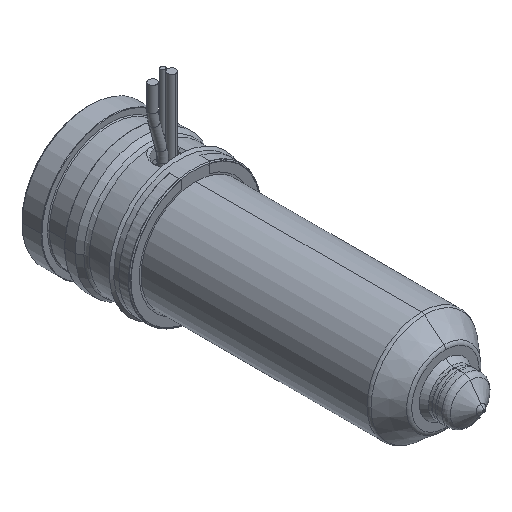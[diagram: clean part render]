
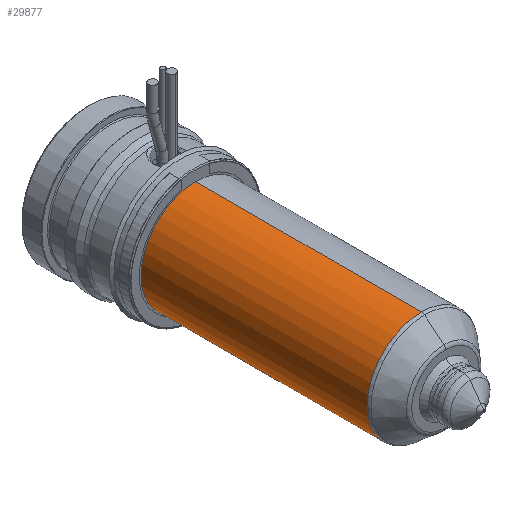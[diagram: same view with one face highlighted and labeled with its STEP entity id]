
A CAD part, isometric view. The second image highlights one B-rep face of the part: STEP entity #29877.
In plain terms, the highlighted cylindrical face has radius 12 mm (diameter 24 mm), a partial arc.
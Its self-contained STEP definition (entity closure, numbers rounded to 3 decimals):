
#29362=CARTESIAN_POINT('',(0.,-24.,0.));
#29363=DIRECTION('',(0.,1.,0.));
#29364=DIRECTION('',(0.,0.,-1.));
#29365=AXIS2_PLACEMENT_3D('',#29362,#29363,#29364);
#29370=DIRECTION('',(0.,1.,0.));
#29371=VECTOR('',#29370,49.736);
#29372=CARTESIAN_POINT('',(0.,-73.736,12.));
#29373=LINE('',#29372,#29371);
#29385=DIRECTION('',(0.,1.,0.));
#29386=VECTOR('',#29385,49.736);
#29387=CARTESIAN_POINT('',(0.,-73.736,-12.));
#29388=LINE('',#29387,#29386);
#29416=CARTESIAN_POINT('',(0.,-73.736,0.));
#29417=DIRECTION('',(0.,-1.,0.));
#29418=DIRECTION('',(0.,0.,1.));
#29419=AXIS2_PLACEMENT_3D('',#29416,#29417,#29418);
#29746=CARTESIAN_POINT('',(0.,-73.736,12.));
#29747=CARTESIAN_POINT('',(0.,-24.,12.));
#29748=VERTEX_POINT('',#29746);
#29749=VERTEX_POINT('',#29747);
#29750=CARTESIAN_POINT('',(0.,-73.736,-12.));
#29751=CARTESIAN_POINT('',(0.,-24.,-12.));
#29752=VERTEX_POINT('',#29750);
#29753=VERTEX_POINT('',#29751);
#29863=CARTESIAN_POINT('',(0.,-16.625,0.));
#29864=DIRECTION('',(0.,-1.,0.));
#29865=DIRECTION('',(0.,0.,1.));
#29866=AXIS2_PLACEMENT_3D('',#29863,#29864,#29865);
#29867=CYLINDRICAL_SURFACE('',#29866,12.);
#29869=ORIENTED_EDGE('',*,*,#29868,.F.);
#29871=ORIENTED_EDGE('',*,*,#29870,.T.);
#29873=ORIENTED_EDGE('',*,*,#29872,.T.);
#29874=ORIENTED_EDGE('',*,*,#29856,.T.);
#29875=EDGE_LOOP('',(#29869,#29871,#29873,#29874));
#29876=FACE_OUTER_BOUND('',#29875,.F.);
#29877=ADVANCED_FACE('',(#29876),#29867,.T.);
#29366=CIRCLE('',#29365,12.);
#29420=CIRCLE('',#29419,12.);
#29856=EDGE_CURVE('',#29753,#29749,#29366,.T.);
#29868=EDGE_CURVE('',#29748,#29749,#29373,.T.);
#29870=EDGE_CURVE('',#29748,#29752,#29420,.T.);
#29872=EDGE_CURVE('',#29752,#29753,#29388,.T.);
